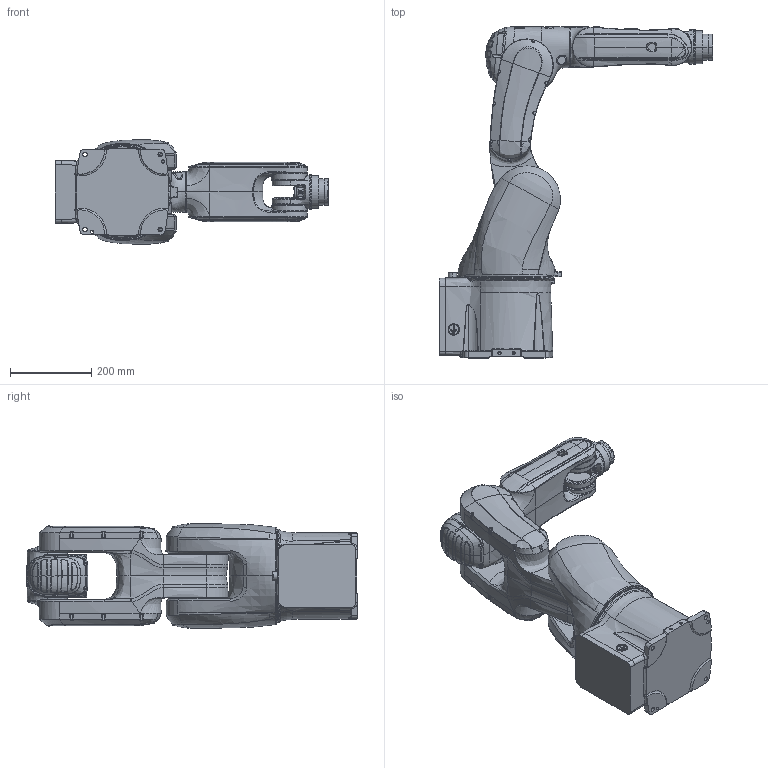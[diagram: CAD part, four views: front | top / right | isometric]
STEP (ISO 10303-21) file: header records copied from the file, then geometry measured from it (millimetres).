
FILE_DESCRIPTION (( 'STEP AP214' ), '1' );
FILE_NAME ('MB10S-740 俋楷耀倰-SW2020唳.STEP', '2024-10-25T02:49:53', ( 'Windows User' ), ( 'P R C' ), 'SwSTEP 2.0', 'SolidWorks 2020', '' );
FILE_SCHEMA (( 'AUTOMOTIVE_DESIGN' ));
Length unit declared in the file: millimetre
Products named in the file (8): J6楊擘; J6; MB10S-740 俋楷耀倰-SW2020唳; J2; J4; J1; J5; J3
Assembly tree (7 placements, depth 2):
  MB10S-740 俋楷耀倰-SW2020唳
    J1
    J2
    J3
    J4
    J5
    J6
    J6楊擘
Bounding box: 672 x 817 x 256.55 mm (x, y, z)
Volume: 30223911.8 mm3; surface area: 1214475.6 mm2
Topology: 7 solids, 22 shells, 2706 faces, 6601 edges, 3900 vertices
Faces by surface type: bspline 1339, cylinder 636, plane 487, cone 240, sphere 2, torus 2
Entity records: 349807 total; most frequent: CARTESIAN_POINT 284689, ORIENTED_EDGE 12852, DIRECTION 7812, EDGE_CURVE 6426, VERTEX_POINT 3898, AXIS2_PLACEMENT_3D 3072, EDGE_LOOP 2914, B_SPLINE_CURVE_WITH_KNOTS 2885
